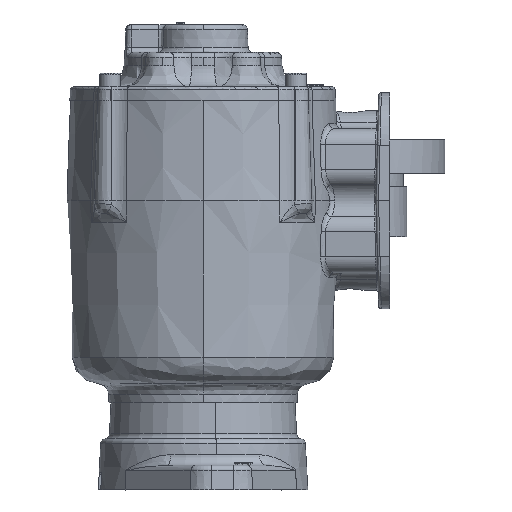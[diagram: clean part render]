
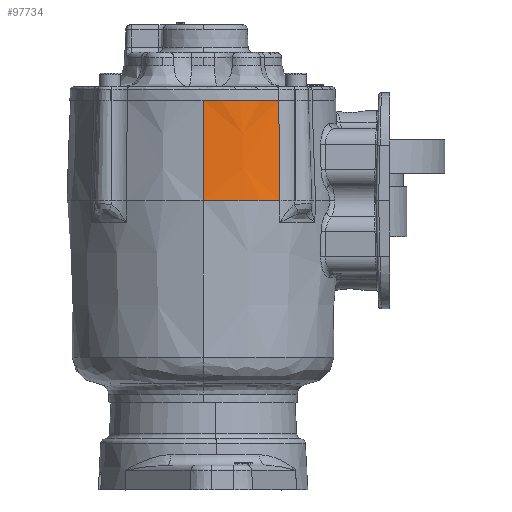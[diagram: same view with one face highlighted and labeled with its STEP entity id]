
A CAD part, left-side view. The second image highlights one B-rep face of the part: STEP entity #97734.
In plain terms, the highlighted conical face has half-angle 2 degrees and reference radius 78.232 mm.
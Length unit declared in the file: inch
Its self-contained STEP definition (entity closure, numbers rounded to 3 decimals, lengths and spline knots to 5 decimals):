
#4466 = EDGE_LOOP ( 'NONE', ( #131014, #84923, #63181, #112598 ) ) ;
#5398 = CARTESIAN_POINT ( 'NONE',  ( -3.41704, 0.15272, 2.61184 ) ) ;
#9142 = CARTESIAN_POINT ( 'NONE',  ( -3.58087, 0.40873, 2.61184 ) ) ;
#10033 = CONICAL_SURFACE ( 'NONE', #91893, 3.08, 0.035 ) ;
#12717 = DIRECTION ( 'NONE',  ( 0., 0., -1. ) ) ;
#14843 = CARTESIAN_POINT ( 'NONE',  ( -4.03267, 1.86514, 0.34734 ) ) ;
#15079 = CARTESIAN_POINT ( 'NONE',  ( -0.95267, 1.86514, 0.34734 ) ) ;
#34363 = EDGE_CURVE ( 'NONE', #85946, #135348, #123830, .T. ) ;
#36417 = CARTESIAN_POINT ( 'NONE',  ( -3.8961, 1.26118, 2.61184 ) ) ;
#46348 = CARTESIAN_POINT ( 'NONE',  ( -3.7709, 0.82297, 2.61184 ) ) ;
#52052 = LINE ( 'NONE', #14843, #102313 ) ;
#59534 = CARTESIAN_POINT ( 'NONE',  ( -3.95359, 1.86514, 2.61184 ) ) ;
#63181 = ORIENTED_EDGE ( 'NONE', *, *, #147423, .F. ) ;
#63855 = DIRECTION ( 'NONE',  ( 0., 0., -1. ) ) ;
#66664 = CARTESIAN_POINT ( 'NONE',  ( -4.03267, 1.86514, 0.34734 ) ) ;
#66697 = VERTEX_POINT ( 'NONE', #78195 ) ;
#78195 = CARTESIAN_POINT ( 'NONE',  ( -3.95359, 1.86514, 2.61184 ) ) ;
#81407 = CARTESIAN_POINT ( 'NONE',  ( -3.46942, 0.13709, 1.12355 ) ) ;
#81462 = VERTEX_POINT ( 'NONE', #66664 ) ;
#84923 = ORIENTED_EDGE ( 'NONE', *, *, #96703, .T. ) ;
#85946 = VERTEX_POINT ( 'NONE', #144038 ) ;
#87816 = DIRECTION ( 'NONE',  ( -1., 0., 0. ) ) ;
#87877 = CARTESIAN_POINT ( 'NONE',  ( -0.95267, 1.86514, 0.34734 ) ) ;
#88176 = AXIS2_PLACEMENT_3D ( 'NONE', #87877, #12717, #135866 ) ;
#91893 = AXIS2_PLACEMENT_3D ( 'NONE', #15079, #63855, #87816 ) ;
#92979 = CARTESIAN_POINT ( 'NONE',  ( -3.49656, 0.12877, 0.34734 ) ) ;
#96703 = EDGE_CURVE ( 'NONE', #66697, #81462, #52052, .T. ) ;
#97734 = ADVANCED_FACE ( 'NONE', ( #113465 ), #10033, .T. ) ;
#98372 = CARTESIAN_POINT ( 'NONE',  ( -3.5037, 0.27743, 2.61184 ) ) ;
#99210 = CARTESIAN_POINT ( 'NONE',  ( -3.71447, 0.6815, 2.61184 ) ) ;
#102313 = VECTOR ( 'NONE', #152864, 39.37008 ) ;
#105776 = EDGE_CURVE ( 'NONE', #135348, #66697, #123441, .T. ) ;
#110776 = CARTESIAN_POINT ( 'NONE',  ( -3.86172, 1.11281, 2.61184 ) ) ;
#112598 = ORIENTED_EDGE ( 'NONE', *, *, #34363, .T. ) ;
#113465 = FACE_OUTER_BOUND ( 'NONE', #4466, .T. ) ;
#118604 = CARTESIAN_POINT ( 'NONE',  ( -3.44291, 0.14507, 1.87838 ) ) ;
#118752 = CARTESIAN_POINT ( 'NONE',  ( -3.41704, 0.15272, 2.61184 ) ) ;
#122352 = CARTESIAN_POINT ( 'NONE',  ( -3.41704, 0.15272, 2.61184 ) ) ;
#123178 = CARTESIAN_POINT ( 'NONE',  ( -3.94204, 1.56141, 2.61184 ) ) ;
#123441 = B_SPLINE_CURVE_WITH_KNOTS ( 'NONE', 3,
 ( #122352, #98372, #9142, #99210, #46348, #110776, #36417, #123178, #148785, #59534 ),
 .UNSPECIFIED., .F., .F.,
 ( 4, 2, 2, 2, 4 ),
 ( 0., 0.25, 0.5, 0.75, 1. ),
 .UNSPECIFIED. ) ;
#123830 = B_SPLINE_CURVE_WITH_KNOTS ( 'NONE', 3,
 ( #92979, #81407, #118604, #5398 ),
 .UNSPECIFIED., .F., .F.,
 ( 4, 4 ),
 ( 0., 1. ),
 .UNSPECIFIED. ) ;
#131014 = ORIENTED_EDGE ( 'NONE', *, *, #105776, .T. ) ;
#135348 = VERTEX_POINT ( 'NONE', #118752 ) ;
#135866 = DIRECTION ( 'NONE',  ( 1., 0., 0. ) ) ;
#144038 = CARTESIAN_POINT ( 'NONE',  ( -3.49656, 0.12877, 0.34734 ) ) ;
#147423 = EDGE_CURVE ( 'NONE', #85946, #81462, #159445, .T. ) ;
#148785 = CARTESIAN_POINT ( 'NONE',  ( -3.95359, 1.71328, 2.61184 ) ) ;
#152864 = DIRECTION ( 'NONE',  ( -0.035, 0., -0.999 ) ) ;
#159445 = CIRCLE ( 'NONE', #88176, 3.08 ) ;
